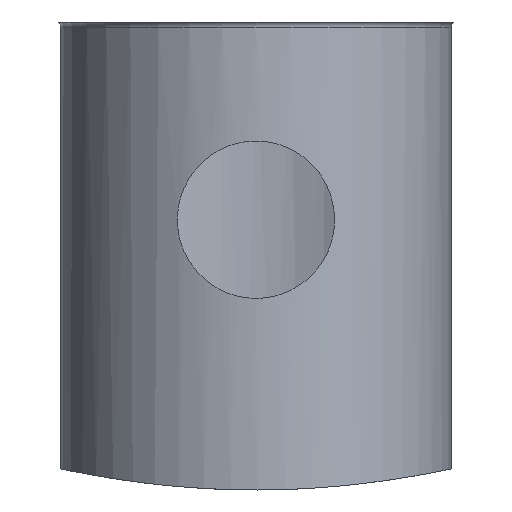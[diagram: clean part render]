
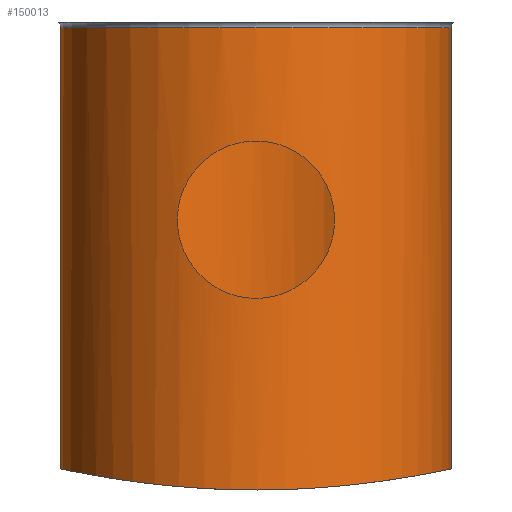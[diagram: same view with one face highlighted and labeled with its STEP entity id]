
A CAD part, front view. The second image highlights one B-rep face of the part: STEP entity #150013.
In plain terms, the highlighted cylindrical face has radius 2.5 mm (diameter 5 mm), a full revolution.
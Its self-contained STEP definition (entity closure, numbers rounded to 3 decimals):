
#4995=B_SPLINE_CURVE_WITH_KNOTS('',3,(#260500,#260501,#260502,#260503,#260504,
#260505,#260506,#260507,#260508,#260509,#260510,#260511,#260512,#260513,
#260514,#260515,#260516,#260517,#260518,#260519,#260520,#260521,#260522,
#260523,#260524,#260525,#260526,#260527,#260528,#260529,#260530,#260531,
#260532,#260533),.UNSPECIFIED.,.T.,.F.,(4,2,2,2,2,2,2,2,2,2,2,2,2,2,2,2,
4),(0.,0.038,0.077,0.115,0.154,
0.192,0.23,0.269,0.307,
0.346,0.384,0.422,0.461,
0.499,0.537,0.576,0.614),
 .UNSPECIFIED.);
#5004=B_SPLINE_CURVE_WITH_KNOTS('',3,(#261015,#261016,#261017,#261018,#261019,
#261020,#261021,#261022,#261023,#261024,#261025,#261026,#261027,#261028,
#261029,#261030),.UNSPECIFIED.,.T.,.F.,(4,1,1,1,1,1,1,1,1,1,1,1,1,4),(0.,
0.108,0.216,0.324,0.432,
0.486,0.648,0.756,0.864,
1.08,1.188,1.296,1.404,1.512),
 .UNSPECIFIED.);
#7903=CYLINDRICAL_SURFACE('',#167477,2.5);
#20280=FACE_BOUND('',#36361,.T.);
#20281=FACE_BOUND('',#36362,.T.);
#25214=FACE_OUTER_BOUND('',#36360,.T.);
#36360=EDGE_LOOP('',(#111966));
#36361=EDGE_LOOP('',(#111967));
#36362=EDGE_LOOP('',(#111968));
#50936=CIRCLE('',#167478,2.5);
#65191=VERTEX_POINT('',#260499);
#65235=VERTEX_POINT('',#261013);
#65236=VERTEX_POINT('',#261032);
#81752=EDGE_CURVE('',#65191,#65191,#4995,.T.);
#81817=EDGE_CURVE('',#65235,#65235,#5004,.T.);
#81818=EDGE_CURVE('',#65236,#65236,#50936,.T.);
#111966=ORIENTED_EDGE('',*,*,#81818,.F.);
#111967=ORIENTED_EDGE('',*,*,#81752,.T.);
#111968=ORIENTED_EDGE('',*,*,#81817,.F.);
#150013=ADVANCED_FACE('',(#25214,#20280,#20281),#7903,.F.);
#167477=AXIS2_PLACEMENT_3D('',#261031,#204841,#204842);
#167478=AXIS2_PLACEMENT_3D('',#261033,#204843,#204844);
#204841=DIRECTION('center_axis',(0.,0.,1.));
#204842=DIRECTION('ref_axis',(-1.,0.,0.));
#204843=DIRECTION('center_axis',(0.,0.,-1.));
#204844=DIRECTION('ref_axis',(-1.,0.,0.));
#260499=CARTESIAN_POINT('',(1.007,7.712,-8.));
#260500=CARTESIAN_POINT('Ctrl Pts',(1.007,7.712,-8.));
#260501=CARTESIAN_POINT('Ctrl Pts',(1.007,7.712,-7.872));
#260502=CARTESIAN_POINT('Ctrl Pts',(0.981,7.7,
-7.737));
#260503=CARTESIAN_POINT('Ctrl Pts',(0.877,7.658,
-7.489));
#260504=CARTESIAN_POINT('Ctrl Pts',(0.8,7.63,
-7.377));
#260505=CARTESIAN_POINT('Ctrl Pts',(0.623,7.577,-7.2));
#260506=CARTESIAN_POINT('Ctrl Pts',(0.511,7.55,-7.123));
#260507=CARTESIAN_POINT('Ctrl Pts',(0.263,7.511,
-7.019));
#260508=CARTESIAN_POINT('Ctrl Pts',(0.128,7.5,-6.994));
#260509=CARTESIAN_POINT('Ctrl Pts',(-0.128,7.5,-6.994));
#260510=CARTESIAN_POINT('Ctrl Pts',(-0.263,7.511,
-7.019));
#260511=CARTESIAN_POINT('Ctrl Pts',(-0.511,7.55,
-7.123));
#260512=CARTESIAN_POINT('Ctrl Pts',(-0.623,7.577,
-7.2));
#260513=CARTESIAN_POINT('Ctrl Pts',(-0.8,7.63,
-7.377));
#260514=CARTESIAN_POINT('Ctrl Pts',(-0.877,7.658,
-7.489));
#260515=CARTESIAN_POINT('Ctrl Pts',(-0.981,7.7,
-7.737));
#260516=CARTESIAN_POINT('Ctrl Pts',(-1.007,7.712,-7.872));
#260517=CARTESIAN_POINT('Ctrl Pts',(-1.007,7.712,-8.128));
#260518=CARTESIAN_POINT('Ctrl Pts',(-0.981,7.7,
-8.263));
#260519=CARTESIAN_POINT('Ctrl Pts',(-0.877,7.658,
-8.511));
#260520=CARTESIAN_POINT('Ctrl Pts',(-0.8,7.63,
-8.623));
#260521=CARTESIAN_POINT('Ctrl Pts',(-0.623,7.577,
-8.8));
#260522=CARTESIAN_POINT('Ctrl Pts',(-0.511,7.55,
-8.877));
#260523=CARTESIAN_POINT('Ctrl Pts',(-0.263,7.511,
-8.981));
#260524=CARTESIAN_POINT('Ctrl Pts',(-0.128,7.5,-9.007));
#260525=CARTESIAN_POINT('Ctrl Pts',(0.128,7.5,-9.007));
#260526=CARTESIAN_POINT('Ctrl Pts',(0.263,7.511,
-8.981));
#260527=CARTESIAN_POINT('Ctrl Pts',(0.511,7.55,-8.877));
#260528=CARTESIAN_POINT('Ctrl Pts',(0.623,7.577,-8.8));
#260529=CARTESIAN_POINT('Ctrl Pts',(0.8,7.63,
-8.623));
#260530=CARTESIAN_POINT('Ctrl Pts',(0.877,7.658,
-8.511));
#260531=CARTESIAN_POINT('Ctrl Pts',(0.981,7.7,
-8.263));
#260532=CARTESIAN_POINT('Ctrl Pts',(1.007,7.712,-8.128));
#260533=CARTESIAN_POINT('Ctrl Pts',(1.007,7.712,-8.));
#261013=CARTESIAN_POINT('',(-2.5,10.,-11.188));
#261015=CARTESIAN_POINT('Ctrl Pts',(-2.5,10.,
-11.188));
#261016=CARTESIAN_POINT('Ctrl Pts',(-2.5,9.625,
-11.188));
#261017=CARTESIAN_POINT('Ctrl Pts',(-2.328,8.875,
-11.226));
#261018=CARTESIAN_POINT('Ctrl Pts',(-1.613,7.98,-11.355));
#261019=CARTESIAN_POINT('Ctrl Pts',(-0.578,7.479,
-11.463));
#261020=CARTESIAN_POINT('Ctrl Pts',(0.385,7.48,
-11.463));
#261021=CARTESIAN_POINT('Ctrl Pts',(1.452,7.853,-11.382));
#261022=CARTESIAN_POINT('Ctrl Pts',(2.288,8.688,-11.235));
#261023=CARTESIAN_POINT('Ctrl Pts',(2.585,9.999,-11.169));
#261024=CARTESIAN_POINT('Ctrl Pts',(2.248,11.505,-11.245));
#261025=CARTESIAN_POINT('Ctrl Pts',(0.967,12.525,
-11.464));
#261026=CARTESIAN_POINT('Ctrl Pts',(-0.579,12.519,
-11.462));
#261027=CARTESIAN_POINT('Ctrl Pts',(-1.612,12.021,
-11.355));
#261028=CARTESIAN_POINT('Ctrl Pts',(-2.328,11.124,
-11.226));
#261029=CARTESIAN_POINT('Ctrl Pts',(-2.5,10.375,
-11.188));
#261030=CARTESIAN_POINT('Ctrl Pts',(-2.5,10.,
-11.188));
#261031=CARTESIAN_POINT('Origin',(0.,10.,0.));
#261032=CARTESIAN_POINT('',(2.5,10.,-5.541));
#261033=CARTESIAN_POINT('Origin',(0.,10.,-5.541));
